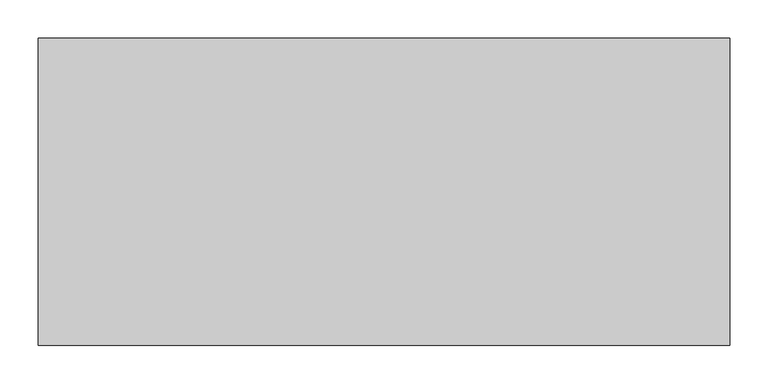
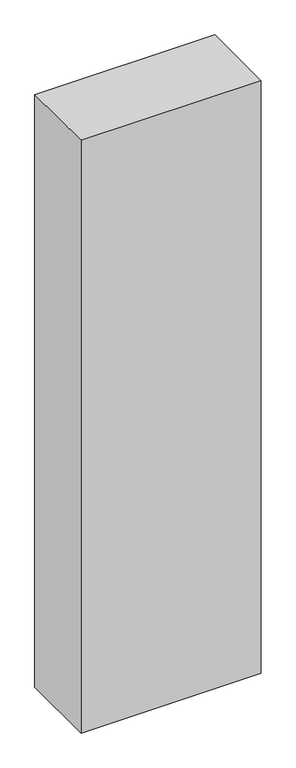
"""IFC4 building model written with IfcOpenShell, lengths in millimetres: proxy geometry."""

from ifc_helpers import new_model, si_unit, origin, origin_with_axes, place, context, project, spatial, polyline, outline, extrude, source, transform, mapped, element, save


def generic_models_6e66b1b8(model_context):
    return source(origin(), model_context, "Body", "SweptSolid", [
        extrude(outline(polyline([(-20594.9988284, -19100.7903364), (-20594.9988284, -18700.7903364), (-19694.9988284, -18700.7903364), (-19694.9988284, -19100.7903364), (-20594.9988284, -19100.7903364)])), origin_with_axes(), (0.0, 0.0, 1.0), 3130.0),
    ])


if __name__ == "__main__":
    model = new_model("IFC4")
    model_context = context("Model", 3, world=origin())
    ifc_project = project(units=[si_unit("LENGTHUNIT", "METRE", prefix="MILLI")], contexts=[model_context])
    site = spatial("IfcSite", under=ifc_project)
    building = spatial("IfcBuilding", under=site)
    placement = place(None, origin())
    generic_models_shape = generic_models_6e66b1b8(model_context)
    element("IfcBuildingElementProxy", 1, Name="Generic Models", at=placement, inside=building, context=model_context, shape_type="MappedRepresentation", body=[
        mapped(generic_models_shape, transform((0.0, 0.0, 0.0), x_axis=(1.0, 0.0, 0.0), y_axis=(0.0, 1.0, 0.0), z_axis=(0.0, 0.0, 1.0))),
    ])
    save(model, "model.ifc")
